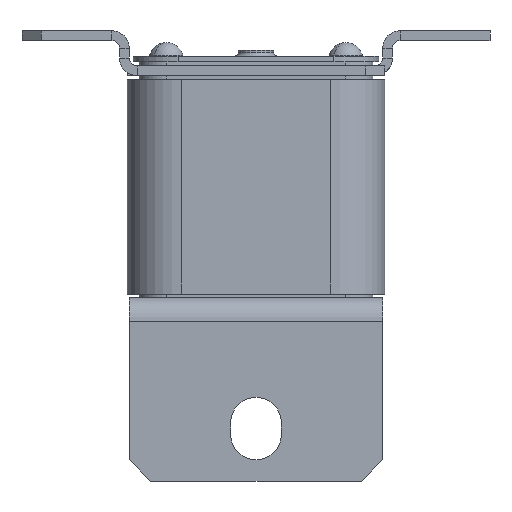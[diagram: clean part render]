
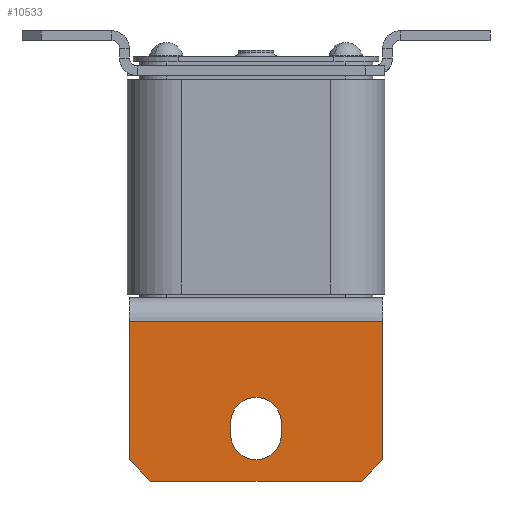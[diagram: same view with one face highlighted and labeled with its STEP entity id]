
A CAD part, front view. The second image highlights one B-rep face of the part: STEP entity #10533.
In plain terms, the highlighted planar face has unit normal (0, -1, 0).
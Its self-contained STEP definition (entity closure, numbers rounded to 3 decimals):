
#124 = DIRECTION ( 'NONE',  ( 0., 0., 1. ) ) ;
#180 = ORIENTED_EDGE ( 'NONE', *, *, #7058, .T. ) ;
#392 = CARTESIAN_POINT ( 'NONE',  ( -29.868, -16.503, -97.5 ) ) ;
#586 = CARTESIAN_POINT ( 'NONE',  ( 2.632, -16.503, -97.5 ) ) ;
#863 = CARTESIAN_POINT ( 'NONE',  ( -62.368, -16.503, -62. ) ) ;
#904 = ORIENTED_EDGE ( 'NONE', *, *, #14070, .F. ) ;
#1039 = VERTEX_POINT ( 'NONE', #586 ) ;
#1226 = EDGE_CURVE ( 'NONE', #6897, #2048, #2315, .T. ) ;
#1288 = AXIS2_PLACEMENT_3D ( 'NONE', #14774, #11051, #124 ) ;
#1346 = EDGE_LOOP ( 'NONE', ( #15110, #3975, #11614, #2153, #180, #11480 ) ) ;
#1406 = CARTESIAN_POINT ( 'NONE',  ( -23.368, -16.503, -88. ) ) ;
#1610 = LINE ( 'NONE', #10718, #14221 ) ;
#1978 = EDGE_CURVE ( 'NONE', #5549, #13631, #13921, .T. ) ;
#2048 = VERTEX_POINT ( 'NONE', #9287 ) ;
#2153 = ORIENTED_EDGE ( 'NONE', *, *, #10728, .T. ) ;
#2193 = VECTOR ( 'NONE', #12091, 1000. ) ;
#2194 = DIRECTION ( 'NONE',  ( 1., 0., 0. ) ) ;
#2315 = LINE ( 'NONE', #4447, #13592 ) ;
#2513 = FACE_BOUND ( 'NONE', #12292, .T. ) ;
#2967 = DIRECTION ( 'NONE',  ( 0., -1., 0. ) ) ;
#3697 = CARTESIAN_POINT ( 'NONE',  ( 2.632, -16.503, -59. ) ) ;
#3731 = DIRECTION ( 'NONE',  ( 0., 1., 0. ) ) ;
#3757 = CARTESIAN_POINT ( 'NONE',  ( -56.868, -16.503, -103. ) ) ;
#3831 = LINE ( 'NONE', #8198, #11242 ) ;
#3975 = ORIENTED_EDGE ( 'NONE', *, *, #9998, .T. ) ;
#4041 = CARTESIAN_POINT ( 'NONE',  ( -2.868, -16.503, -103. ) ) ;
#4437 = FACE_OUTER_BOUND ( 'NONE', #1346, .T. ) ;
#4447 = CARTESIAN_POINT ( 'NONE',  ( -36.368, -16.503, -91. ) ) ;
#4828 = EDGE_CURVE ( 'NONE', #7410, #4996, #11847, .T. ) ;
#4953 = ORIENTED_EDGE ( 'NONE', *, *, #1226, .F. ) ;
#4996 = VERTEX_POINT ( 'NONE', #14312 ) ;
#5020 = DIRECTION ( 'NONE',  ( 0., 0., -1. ) ) ;
#5023 = DIRECTION ( 'NONE',  ( 0., -1., 0. ) ) ;
#5403 = VECTOR ( 'NONE', #9388, 1000. ) ;
#5549 = VERTEX_POINT ( 'NONE', #392 ) ;
#5630 = DIRECTION ( 'NONE',  ( 0.707, 0., 0.707 ) ) ;
#6171 = CARTESIAN_POINT ( 'NONE',  ( -29.868, -16.503, -91. ) ) ;
#6253 = EDGE_CURVE ( 'NONE', #1039, #4996, #7376, .T. ) ;
#6364 = CARTESIAN_POINT ( 'NONE',  ( -62.368, -16.503, -62. ) ) ;
#6897 = VERTEX_POINT ( 'NONE', #13536 ) ;
#7058 = EDGE_CURVE ( 'NONE', #10926, #1039, #13036, .T. ) ;
#7145 = LINE ( 'NONE', #12310, #8844 ) ;
#7257 = DIRECTION ( 'NONE',  ( 0., 0., 1. ) ) ;
#7274 = VERTEX_POINT ( 'NONE', #12344 ) ;
#7314 = DIRECTION ( 'NONE',  ( 0., 0., -1. ) ) ;
#7376 = LINE ( 'NONE', #3697, #2193 ) ;
#7410 = VERTEX_POINT ( 'NONE', #6364 ) ;
#7563 = VERTEX_POINT ( 'NONE', #1406 ) ;
#8183 = DIRECTION ( 'NONE',  ( 0., 0., 1. ) ) ;
#8198 = CARTESIAN_POINT ( 'NONE',  ( -2.868, -16.503, -103. ) ) ;
#8451 = DIRECTION ( 'NONE',  ( 0., 0., 1. ) ) ;
#8466 = CARTESIAN_POINT ( 'NONE',  ( -62.368, -16.503, -97.5 ) ) ;
#8844 = VECTOR ( 'NONE', #7314, 1000. ) ;
#8877 = VERTEX_POINT ( 'NONE', #8466 ) ;
#9287 = CARTESIAN_POINT ( 'NONE',  ( -36.368, -16.503, -91. ) ) ;
#9330 = DIRECTION ( 'NONE',  ( 0., 0., -1. ) ) ;
#9373 = EDGE_CURVE ( 'NONE', #8877, #7274, #11349, .T. ) ;
#9388 = DIRECTION ( 'NONE',  ( 1., 0., 0. ) ) ;
#9426 = ORIENTED_EDGE ( 'NONE', *, *, #15232, .F. ) ;
#9636 = VECTOR ( 'NONE', #9766, 1000. ) ;
#9766 = DIRECTION ( 'NONE',  ( 0.707, 0., -0.707 ) ) ;
#9998 = EDGE_CURVE ( 'NONE', #7410, #8877, #7145, .T. ) ;
#10160 = CARTESIAN_POINT ( 'NONE',  ( -23.368, -16.503, -91. ) ) ;
#10369 = VECTOR ( 'NONE', #5630, 1000. ) ;
#10533 = ADVANCED_FACE ( 'NONE', ( #2513, #4437 ), #12303, .F. ) ;
#10718 = CARTESIAN_POINT ( 'NONE',  ( -23.368, -16.503, -91. ) ) ;
#10728 = EDGE_CURVE ( 'NONE', #7274, #10926, #3831, .T. ) ;
#10926 = VERTEX_POINT ( 'NONE', #4041 ) ;
#11051 = DIRECTION ( 'NONE',  ( 0., -1., 0. ) ) ;
#11100 = CIRCLE ( 'NONE', #13264, 6.5 ) ;
#11242 = VECTOR ( 'NONE', #2194, 1000. ) ;
#11349 = LINE ( 'NONE', #3757, #9636 ) ;
#11409 = ORIENTED_EDGE ( 'NONE', *, *, #1978, .F. ) ;
#11480 = ORIENTED_EDGE ( 'NONE', *, *, #6253, .T. ) ;
#11614 = ORIENTED_EDGE ( 'NONE', *, *, #9373, .T. ) ;
#11628 = CARTESIAN_POINT ( 'NONE',  ( -2.868, -16.503, -103. ) ) ;
#11847 = LINE ( 'NONE', #863, #5403 ) ;
#11892 = AXIS2_PLACEMENT_3D ( 'NONE', #14654, #3731, #5020 ) ;
#12091 = DIRECTION ( 'NONE',  ( 0., 0., 1. ) ) ;
#12292 = EDGE_LOOP ( 'NONE', ( #9426, #4953, #904, #15169, #11409 ) ) ;
#12303 = PLANE ( 'NONE',  #11892 ) ;
#12310 = CARTESIAN_POINT ( 'NONE',  ( -62.368, -16.503, -97.5 ) ) ;
#12344 = CARTESIAN_POINT ( 'NONE',  ( -56.868, -16.503, -103. ) ) ;
#12500 = CIRCLE ( 'NONE', #1288, 6.5 ) ;
#12550 = AXIS2_PLACEMENT_3D ( 'NONE', #15153, #2967, #8451 ) ;
#13036 = LINE ( 'NONE', #11628, #10369 ) ;
#13264 = AXIS2_PLACEMENT_3D ( 'NONE', #6171, #5023, #7257 ) ;
#13536 = CARTESIAN_POINT ( 'NONE',  ( -36.368, -16.503, -88. ) ) ;
#13592 = VECTOR ( 'NONE', #9330, 1000. ) ;
#13631 = VERTEX_POINT ( 'NONE', #10160 ) ;
#13921 = CIRCLE ( 'NONE', #12550, 6.5 ) ;
#14070 = EDGE_CURVE ( 'NONE', #7563, #6897, #12500, .T. ) ;
#14221 = VECTOR ( 'NONE', #8183, 1000. ) ;
#14312 = CARTESIAN_POINT ( 'NONE',  ( 2.632, -16.503, -62. ) ) ;
#14411 = EDGE_CURVE ( 'NONE', #13631, #7563, #1610, .T. ) ;
#14654 = CARTESIAN_POINT ( 'NONE',  ( -62.368, -16.503, -59. ) ) ;
#14774 = CARTESIAN_POINT ( 'NONE',  ( -29.868, -16.503, -88. ) ) ;
#15110 = ORIENTED_EDGE ( 'NONE', *, *, #4828, .F. ) ;
#15153 = CARTESIAN_POINT ( 'NONE',  ( -29.868, -16.503, -91. ) ) ;
#15169 = ORIENTED_EDGE ( 'NONE', *, *, #14411, .F. ) ;
#15232 = EDGE_CURVE ( 'NONE', #2048, #5549, #11100, .T. ) ;
